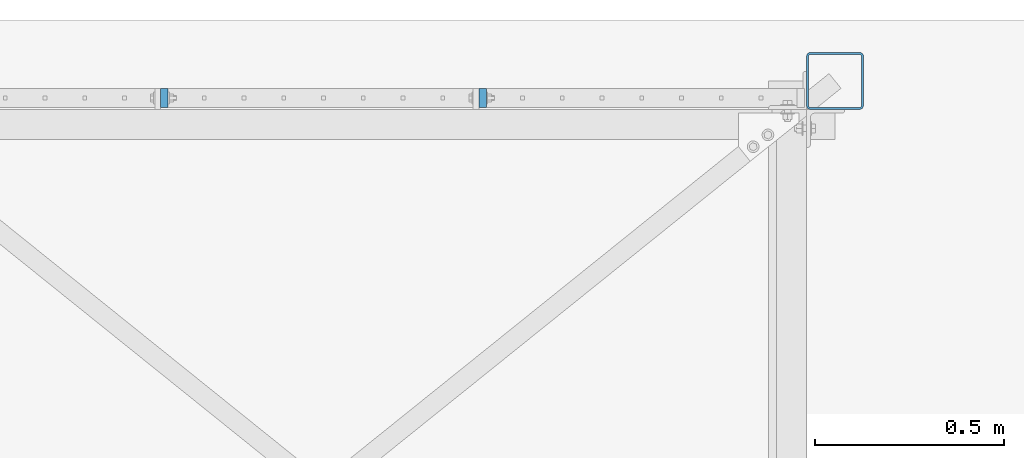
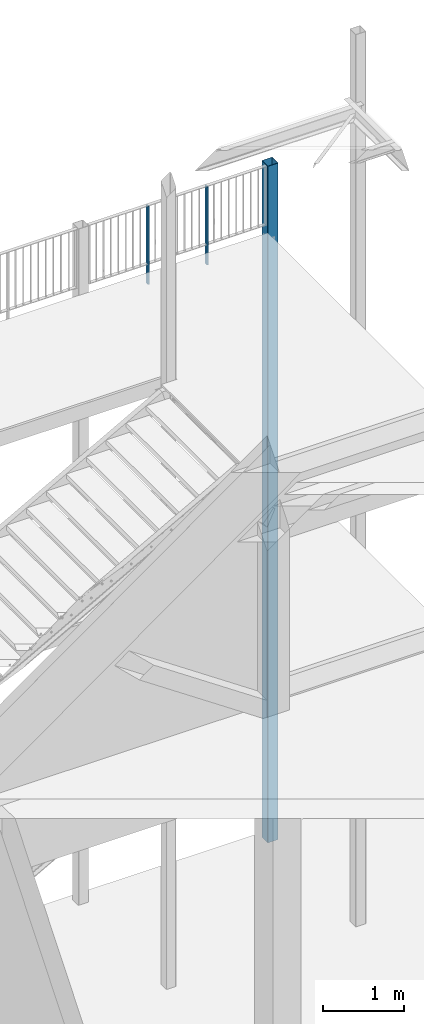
# One storey, part 13 of 78: 3 columns, 2 elements without a shape of their own.
"""IFC2X3 building model written with IfcOpenShell, lengths in millimetres."""

from ifc_helpers import new_model, si_unit, frame, origin_with_axes, origin_2d_with_axis, place, context, subcontext, project, spatial, rectangle, hollow_rectangle, extrude, clip, halfspace, material, type_object, element, aggregate, save


model = new_model("IFC2X3")

# Units and contexts
model_context = context("Model", 3, precision=1e-05, world=origin_with_axes())
body_context = subcontext(model_context, "Body", "Model", "MODEL_VIEW")
ifc_project = project(units=[si_unit("LENGTHUNIT", "METRE", prefix="MILLI"), si_unit("AREAUNIT", "SQUARE_METRE"), si_unit("VOLUMEUNIT", "CUBIC_METRE"), si_unit("MASSUNIT", "GRAM", prefix="KILO"), si_unit("TIMEUNIT", "SECOND"), si_unit("PLANEANGLEUNIT", "RADIAN"), si_unit("SOLIDANGLEUNIT", "STERADIAN"), si_unit("THERMODYNAMICTEMPERATUREUNIT", "DEGREE_CELSIUS"), si_unit("LUMINOUSINTENSITYUNIT", "LUMEN")], contexts=[model_context])

# Site, building, storey
site_placement = place(None, origin_with_axes())
site = spatial("IfcSite", under=ifc_project, at=site_placement, Name="Site", CompositionType="ELEMENT")
building_placement = place(site_placement, origin_with_axes())
building = spatial("IfcBuilding", under=site, at=building_placement, Name="Undefined", CompositionType="ELEMENT")
storey_placement = place(building_placement, origin_with_axes())
storey = spatial("IfcBuildingStorey", under=building, at=storey_placement, Name="Undefined", CompositionType="ELEMENT", Elevation=0.0)

# Assembly, columns
assembly_1_placement = place(storey_placement, origin_with_axes())
assembly_1 = element("IfcElementAssembly", 1, at=assembly_1_placement, inside=storey, Name="MAIN_COURANTE", AssemblyPlace="NOTDEFINED", PredefinedType="RIGID_FRAME")
ifc_material_1 = material(Name="STEEL/S235JR")
column_type_1 = type_object("IfcColumnType", Name="PL20*50", PredefinedType="NOTDEFINED")
column_1_placement = place(assembly_1_placement, frame((2428.57000000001, 32872.9999999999, 156670.04), z_axis=(0.0, 0.0, 1.0), x_axis=(0.0, -1.0, 0.0)))
column_1 = element("IfcColumn", 2, at=column_1_placement, type_object=column_type_1, material=ifc_material_1, Name="MONTANT", ObjectType="PL20*50", context=body_context, shape_type="Clipping", body=[
    clip(clip(extrude(rectangle(XDim=20.0, YDim=50.0, at=origin_2d_with_axis()), frame((0.0, 0.0, 1030.0), z_axis=(0.0, 0.0, -1.0), x_axis=(0.0, 1.0, 0.0)), (0.0, 0.0, 1.0), 1190.0), halfspace(frame((1.96450855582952e-10, 0.0, 1020.0), z_axis=(0.0, 0.0, 1.0), x_axis=(-1.0, 0.0, 0.0)), False)), halfspace(frame((0.0, -1010.0, -160.0), z_axis=(0.0, 0.0, 1.0), x_axis=(-1.0, 0.0, 0.0)), True)),
])
column_2_placement = place(assembly_1_placement, frame((3268.57, 32872.9999999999, 156670.04), z_axis=(0.0, 0.0, 1.0), x_axis=(0.0, -1.0, 0.0)))
column_2 = element("IfcColumn", 3, at=column_2_placement, type_object=column_type_1, material=ifc_material_1, Name="MONTANT", ObjectType="PL20*50", context=body_context, shape_type="Clipping", body=[
    clip(clip(extrude(rectangle(XDim=20.0, YDim=50.0, at=origin_2d_with_axis()), frame((0.0, 0.0, 1030.0), z_axis=(0.0, 0.0, -1.0), x_axis=(0.0, 1.0, 0.0)), (0.0, 0.0, 1.0), 1190.0), halfspace(frame((1.96450855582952e-10, 0.0, 1020.0), z_axis=(0.0, 0.0, 1.0), x_axis=(-1.0, 0.0, 0.0)), False)), halfspace(frame((0.0, -1010.0, -160.0), z_axis=(0.0, 0.0, 1.0), x_axis=(-1.0, 0.0, 0.0)), True)),
])
aggregate(assembly_1, [column_1, column_2])

# Assembly, column
assembly_2_placement = place(storey_placement, origin_with_axes())
assembly_2 = element("IfcElementAssembly", 4, at=assembly_2_placement, inside=storey, Name="POTEAU", AssemblyPlace="NOTDEFINED", PredefinedType="RIGID_FRAME")
ifc_material_2 = material(Name="STEEL/S275JR")
column_type_2 = type_object("IfcColumnType", Name="TUBE-C-150*150*5", PredefinedType="NOTDEFINED")
column_3_placement = place(assembly_2_placement, frame((4198.57, 32918.0, 147500.04), z_axis=(0.0, 0.0, 1.0), x_axis=(0.0, 1.0, 0.0)))
column_3 = element("IfcColumn", 5, at=column_3_placement, type_object=column_type_2, material=ifc_material_2, Name="POTEAU", ObjectType="TUBE-C-150*150*5", context=body_context, shape_type="SweptSolid", body=[
    extrude(hollow_rectangle(XDim=150.0, YDim=150.0, WallThickness=5.0, InnerFilletRadius=5.0, OuterFilletRadius=10.0, at=origin_2d_with_axis()), frame((0.0, 0.0, 10200.0), z_axis=(0.0, 0.0, -1.0), x_axis=(0.0, 1.0, 0.0)), (0.0, 0.0, 1.0), 10200.0),
])
aggregate(assembly_2, [column_3])

save(model, "model.ifc")
